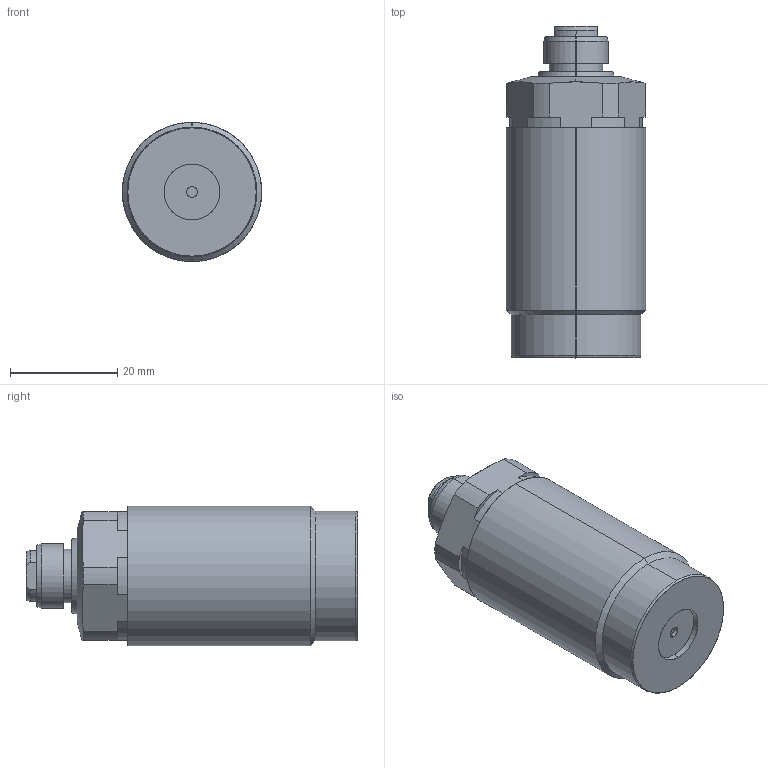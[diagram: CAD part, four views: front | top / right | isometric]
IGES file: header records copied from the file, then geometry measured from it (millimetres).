
Start section: SolidWorks IGES file using analytic representation for surfaces
Global section: file name: E:\karthik\CLASYS\FOR CD\Pneumatics\0211 Work Support(Threaded Body)\pneu advance\0211\0211-0261.IGS; native system: SolidWorks 2010; preprocessor: SolidWorks 2010; author: karthik; date: 130917.152139; units: millimetre
Bounding box: 26 x 61.9 x 26 mm (x, y, z)
Surface area: 5612.9 mm2 (no closed solid volume)
Topology: 0 solids, 0 shells, 63 faces, 826 edges, 826 vertices
Faces by surface type: revolution 40, bspline 23
